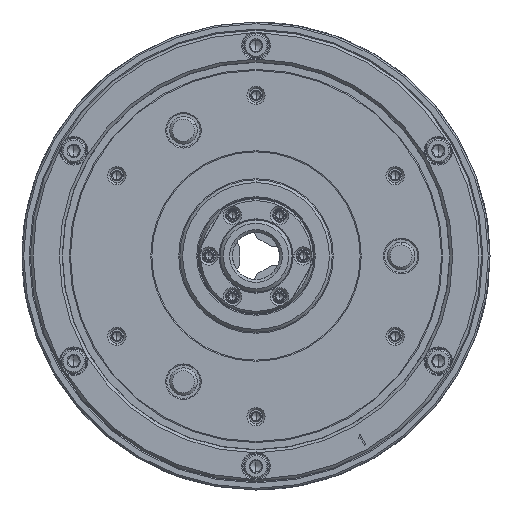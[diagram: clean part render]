
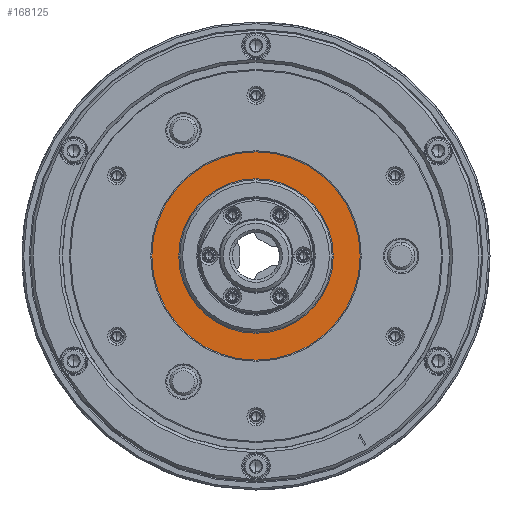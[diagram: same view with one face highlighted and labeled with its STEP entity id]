
A CAD part, left-side view. The second image highlights one B-rep face of the part: STEP entity #168125.
In plain terms, the highlighted planar face has unit normal (-1, 0, 0) as drawn and (0, 0, -1) by its records, which use the part's own axes.
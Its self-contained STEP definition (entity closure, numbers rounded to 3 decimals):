
#12370 = CARTESIAN_POINT ( 'NONE',  ( 0., 37.616, -99.8 ) ) ;
#15271 = AXIS2_PLACEMENT_3D ( 'NONE', #157071, #116165, #38294 ) ;
#22100 = EDGE_CURVE ( 'NONE', #57226, #143832, #151422, .T. ) ;
#22653 = AXIS2_PLACEMENT_3D ( 'NONE', #105619, #118359, #58975 ) ;
#30266 = DIRECTION ( 'NONE',  ( 0., 0., 1. ) ) ;
#30290 = EDGE_CURVE ( 'NONE', #143832, #57226, #85632, .T. ) ;
#38294 = DIRECTION ( 'NONE',  ( 1., 0., 0. ) ) ;
#42655 = DIRECTION ( 'NONE',  ( 1., 0., 0. ) ) ;
#44456 = VERTEX_POINT ( 'NONE', #48613 ) ;
#47792 = VERTEX_POINT ( 'NONE', #89079 ) ;
#48171 = EDGE_CURVE ( 'NONE', #47792, #44456, #89863, .T. ) ;
#48613 = CARTESIAN_POINT ( 'NONE',  ( -27.9, 0., -99.8 ) ) ;
#57226 = VERTEX_POINT ( 'NONE', #61039 ) ;
#58975 = DIRECTION ( 'NONE',  ( 1., 0., 0. ) ) ;
#61039 = CARTESIAN_POINT ( 'NONE',  ( 37.616, 0., -99.8 ) ) ;
#61949 = ORIENTED_EDGE ( 'NONE', *, *, #48171, .T. ) ;
#75539 = CIRCLE ( 'NONE', #22653, 27.9 ) ;
#85632 = CIRCLE ( 'NONE', #172645, 37.616 ) ;
#86330 = DIRECTION ( 'NONE',  ( 0., 0., -1. ) ) ;
#89079 = CARTESIAN_POINT ( 'NONE',  ( 27.9, 0., -99.8 ) ) ;
#89863 = CIRCLE ( 'NONE', #15271, 27.9 ) ;
#93188 = EDGE_LOOP ( 'NONE', ( #61949, #186629 ) ) ;
#101907 = FACE_BOUND ( 'NONE', #93188, .T. ) ;
#105619 = CARTESIAN_POINT ( 'NONE',  ( 0., 0., -99.8 ) ) ;
#107966 = CARTESIAN_POINT ( 'NONE',  ( -37.616, 0., -99.8 ) ) ;
#111345 = EDGE_LOOP ( 'NONE', ( #120466, #187589 ) ) ;
#116165 = DIRECTION ( 'NONE',  ( 0., 0., 1. ) ) ;
#118359 = DIRECTION ( 'NONE',  ( 0., 0., 1. ) ) ;
#118461 = FACE_OUTER_BOUND ( 'NONE', #111345, .T. ) ;
#118886 = DIRECTION ( 'NONE',  ( 1., 0., 0. ) ) ;
#120466 = ORIENTED_EDGE ( 'NONE', *, *, #30290, .F. ) ;
#132215 = CARTESIAN_POINT ( 'NONE',  ( 0., 0., -99.8 ) ) ;
#132446 = EDGE_CURVE ( 'NONE', #44456, #47792, #75539, .T. ) ;
#143832 = VERTEX_POINT ( 'NONE', #107966 ) ;
#146802 = DIRECTION ( 'NONE',  ( 0., 0., 1. ) ) ;
#151422 = CIRCLE ( 'NONE', #176404, 37.616 ) ;
#157071 = CARTESIAN_POINT ( 'NONE',  ( 0., 0., -99.8 ) ) ;
#159372 = PLANE ( 'NONE',  #168372 ) ;
#163650 = CARTESIAN_POINT ( 'NONE',  ( 0., 0., -99.8 ) ) ;
#168125 = ADVANCED_FACE ( 'NONE', ( #101907, #118461 ), #159372, .T. ) ;
#168372 = AXIS2_PLACEMENT_3D ( 'NONE', #12370, #86330, #177910 ) ;
#172645 = AXIS2_PLACEMENT_3D ( 'NONE', #163650, #30266, #118886 ) ;
#176404 = AXIS2_PLACEMENT_3D ( 'NONE', #132215, #146802, #42655 ) ;
#177910 = DIRECTION ( 'NONE',  ( -1., 0., 0. ) ) ;
#186629 = ORIENTED_EDGE ( 'NONE', *, *, #132446, .T. ) ;
#187589 = ORIENTED_EDGE ( 'NONE', *, *, #22100, .F. ) ;
